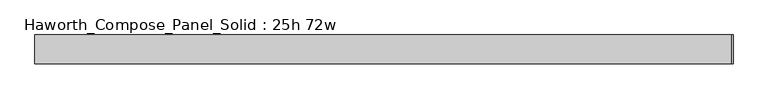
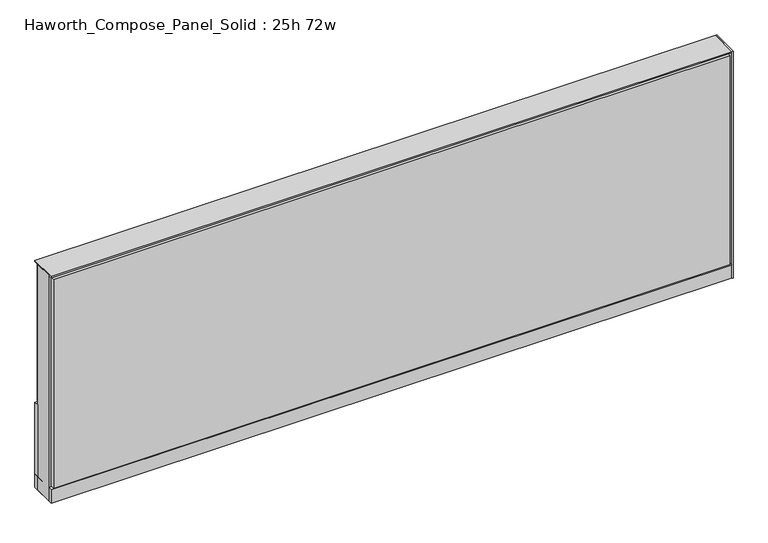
"""IFC4 building model written with IfcOpenShell, lengths in millimetres: furniture geometry, Haworth_Compose_Panel_Solid : 25h 72w."""

from ifc_helpers import new_model, si_unit, point, frame, frame_2d, origin, origin_with_axes, place, context, project, spatial, polyline, circle_curve, trimmed, segment, composite_curve, outline, extrude, source, transform, mapped, element, save


def haworth_compose_panel_solid_25h_72w_b2298db5(model_context):
    return source(origin(), model_context, "Body", "SweptSolid", [
        extrude(outline(composite_curve([segment(trimmed(circle_curve(frame_2d((-835.7597098, 0.0)), 12.7), [point((-848.4597098, 0.0))], [point((-823.0597098, 0.0))], False, "CARTESIAN"), True, "CONTINUOUS"), segment(trimmed(circle_curve(frame_2d((-835.7597098, 0.0)), 12.7), [point((-823.0597098, 0.0))], [point((-848.4597098, 0.0))], False, "CARTESIAN"), True, "CONTINUOUS")], self_intersect=False)), origin_with_axes(), (0.0, 0.0, 1.0), 12.7),
        extrude(outline(composite_curve([segment(trimmed(circle_curve(frame_2d((840.6402902, 0.0)), 12.7), [point((827.9402902, 0.0))], [point((853.3402902, 0.0))], False, "CARTESIAN"), True, "CONTINUOUS"), segment(trimmed(circle_curve(frame_2d((840.6402902, 0.0)), 12.7), [point((853.3402902, 0.0))], [point((827.9402902, 0.0))], False, "CARTESIAN"), True, "CONTINUOUS")], self_intersect=False)), origin_with_axes(), (0.0, 0.0, 1.0), 12.7),
        extrude(outline(polyline([(920.0152902, -38.1), (916.8402902, -38.1), (916.8402902, 38.1), (920.0152902, 38.1), (920.0152902, -38.1)])), frame((0.0, 0.0, 12.7), z_axis=(0.0, 0.0, 1.0), x_axis=(1.0, 0.0, 0.0)), (0.0, 0.0, 1.0), 644.525),
        extrude(outline(polyline([(910.4902902, -38.1), (-905.6097098, -38.1), (-905.6097098, -25.4), (910.4902902, -25.4), (910.4902902, -38.1)])), frame((0.0, 0.0, 53.975), z_axis=(0.0, 0.0, 1.0), x_axis=(1.0, 0.0, 0.0)), (0.0, 0.0, 1.0), 593.725),
        extrude(outline(polyline([(916.8402902, 38.1), (916.8402902, 25.4), (-911.9597098, 25.4), (-911.9597098, 38.1), (916.8402902, 38.1)])), frame((0.0, 0.0, 50.8), z_axis=(0.0, 0.0, 1.0), x_axis=(1.0, 0.0, 0.0)), (0.0, 0.0, 1.0), 203.2),
        extrude(outline(polyline([(910.4902902, 38.1), (910.4902902, 25.4), (-905.6097098, 25.4), (-905.6097098, 38.1), (910.4902902, 38.1)])), frame((0.0, 0.0, 257.175), z_axis=(0.0, 0.0, 1.0), x_axis=(1.0, 0.0, 0.0)), (0.0, 0.0, 1.0), 390.525),
        extrude(outline(polyline([(916.8402902, -25.4), (-911.9597098, -25.4), (-911.9597098, 25.4), (916.8402902, 25.4), (916.8402902, -25.4)])), frame((0.0, 0.0, 12.7), z_axis=(0.0, 0.0, 1.0), x_axis=(1.0, 0.0, 0.0)), (0.0, 0.0, 1.0), 641.35),
        extrude(outline(polyline([(-911.9597098, 38.1), (916.8402902, 38.1), (916.8402902, -38.1), (-911.9597098, -38.1), (-911.9597098, 38.1)])), frame((0.0, 0.0, 12.7), z_axis=(0.0, 0.0, 1.0), x_axis=(1.0, 0.0, 0.0)), (0.0, 0.0, 1.0), 38.1),
        extrude(outline(polyline([(-911.9597098, 38.1), (916.8402902, 38.1), (916.8402902, -38.1), (-911.9597098, -38.1), (-911.9597098, 38.1)])), frame((0.0, 0.0, 654.05), z_axis=(0.0, 0.0, 1.0), x_axis=(1.0, 0.0, 0.0)), (0.0, 0.0, 1.0), 3.175),
    ])


if __name__ == "__main__":
    model = new_model("IFC4")
    model_context = context("Model", 3, world=origin())
    ifc_project = project(units=[si_unit("LENGTHUNIT", "METRE", prefix="MILLI")], contexts=[model_context])
    site = spatial("IfcSite", under=ifc_project)
    building = spatial("IfcBuilding", under=site)
    placement = place(None, origin())
    haworth_compose_panel_solid_25h_72w_shape = haworth_compose_panel_solid_25h_72w_b2298db5(model_context)
    element("IfcFurniture", 1, ObjectType="Haworth_Compose_Panel_Solid : 25h 72w", at=placement, inside=building, context=model_context, shape_type="MappedRepresentation", body=[
        mapped(haworth_compose_panel_solid_25h_72w_shape, transform((0.0, 0.0, 0.0), x_axis=(1.0, 0.0, 0.0), y_axis=(0.0, 1.0, 0.0), z_axis=(0.0, 0.0, 1.0))),
    ])
    save(model, "model.ifc")
